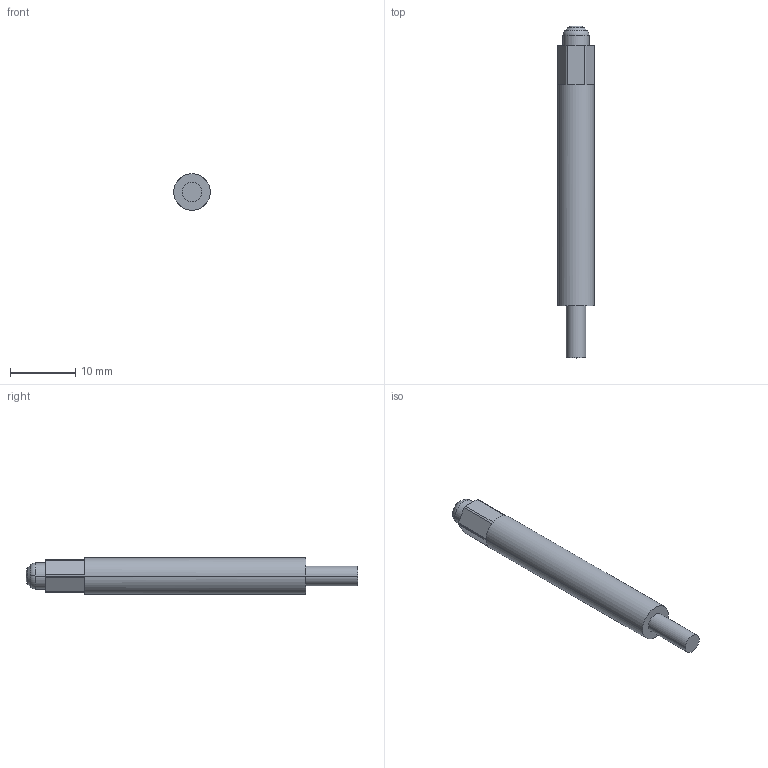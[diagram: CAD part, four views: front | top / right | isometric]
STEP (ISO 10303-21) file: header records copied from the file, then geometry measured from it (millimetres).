
FILE_DESCRIPTION((''),'2;1');
FILE_NAME('124600000226A_MAIN-LC-PIN_D760','2019-06-19T',('george_hsu'),(''),'PRO/ENGINEER BY PARAMETRIC TECHNOLOGY CORPORATION, 2012480','PRO/ENGINEER BY PARAMETRIC TECHNOLOGY CORPORATION, 2012480','');
FILE_SCHEMA(('AUTOMOTIVE_DESIGN { 1 0 10303 214 1 1 1 1 }'));
Length unit declared in the file: millimetre
Products named in the file (1): 124600000226A_MAIN-LC-PIN_D760
Bounding box: 5.6 x 51 x 5.6 mm (x, y, z)
Volume: 1055.5 mm3; surface area: 853.1 mm2
Topology: 1 solids, 1 shells, 28 faces, 66 edges, 42 vertices
Faces by surface type: plane 16, cylinder 6, torus 2, cone 2, bspline 2
Entity records: 919 total; most frequent: CARTESIAN_POINT 192, DIRECTION 152, ORIENTED_EDGE 132, EDGE_CURVE 66, AXIS2_PLACEMENT_3D 60, VERTEX_POINT 42, CIRCLE 34, VECTOR 32
